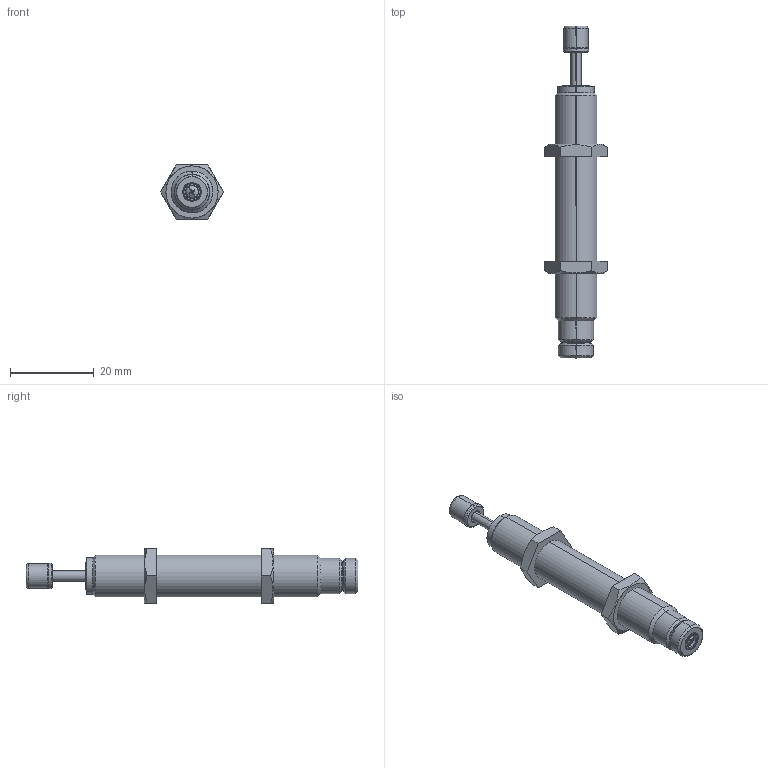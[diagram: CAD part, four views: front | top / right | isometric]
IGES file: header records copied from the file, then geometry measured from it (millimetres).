
Start section: SolidWorks IGES file using analytic representation for surfaces
Bounding box: 15.01 x 79.5 x 13 mm (x, y, z)
Surface area: 3266.3 mm2 (no closed solid volume)
Topology: 0 solids, 0 shells, 104 faces, 1354 edges, 1354 vertices
Faces by surface type: revolution 52, bspline 52
